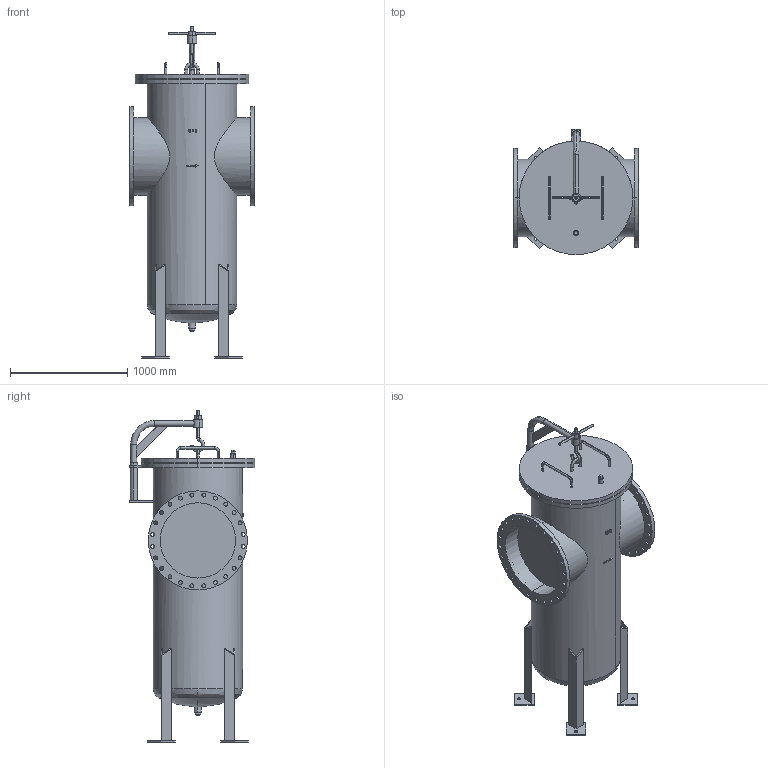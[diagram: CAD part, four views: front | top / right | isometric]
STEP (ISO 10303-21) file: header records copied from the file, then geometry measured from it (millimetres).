
FILE_DESCRIPTION( (''), '2;1');
FILE_NAME ('PC1056.13592.SU-6(650A)_17668.stp','2024-07-31T14:23:56',(''),(''),'spGate 19.8.4 (****-****-****-****)','','');
FILE_SCHEMA (('AUTOMOTIVE_DESIGN'));
Length unit declared in the file: millimetre
Products named in the file (20): Assembly; SU6(650A)本体P; 650Aハンドル; PC1056-prt2; PC1056-prt3; PC1056-prt4; PC1056-prt5; 650Aダビッド_M6; PC1056-prt7; 600Aフック_M5; PC1056-prt9; PC1056-prt10; 600A取っ手_M6; PC1056-prt12; PC1056-prt13; PC1056-prt14; PC1056-prt15; 600Aふたフック_M5; plug-25A-JISB2301; plug-40A-JISB2301
Assembly tree (20 placements, depth 2):
  Assembly
    SU6(650A)本体P
    650Aハンドル
    PC1056-prt2
    PC1056-prt3
    PC1056-prt4
    PC1056-prt5
    650Aダビッド_M6
    PC1056-prt7
    600Aフック_M5
    PC1056-prt9
    PC1056-prt10
    600A取っ手_M6  x2
    PC1056-prt12
    PC1056-prt13
    PC1056-prt14
    PC1056-prt15
    600Aふたフック_M5
    plug-25A-JISB2301
    plug-40A-JISB2301
Bounding box: 1060 x 1070 x 2832.5 mm (x, y, z)
Volume: 1021459908.5 mm3; surface area: 11006106.6 mm2
Topology: 9 solids, 9 shells, 430 faces, 1131 edges, 756 vertices
Faces by surface type: cylinder 228, plane 140, bspline 60, sphere 2
Entity records: 26771 total; most frequent: CARTESIAN_POINT 7686, ORIENTED_EDGE 2180, DIRECTION 2015, COLOUR_RGB 1527, PRESENTATION_STYLE_ASSIGNMENT 1527, STYLED_ITEM 1527, DRAUGHTING_PRE_DEFINED_CURVE_FONT 1101, CURVE_STYLE 1101
